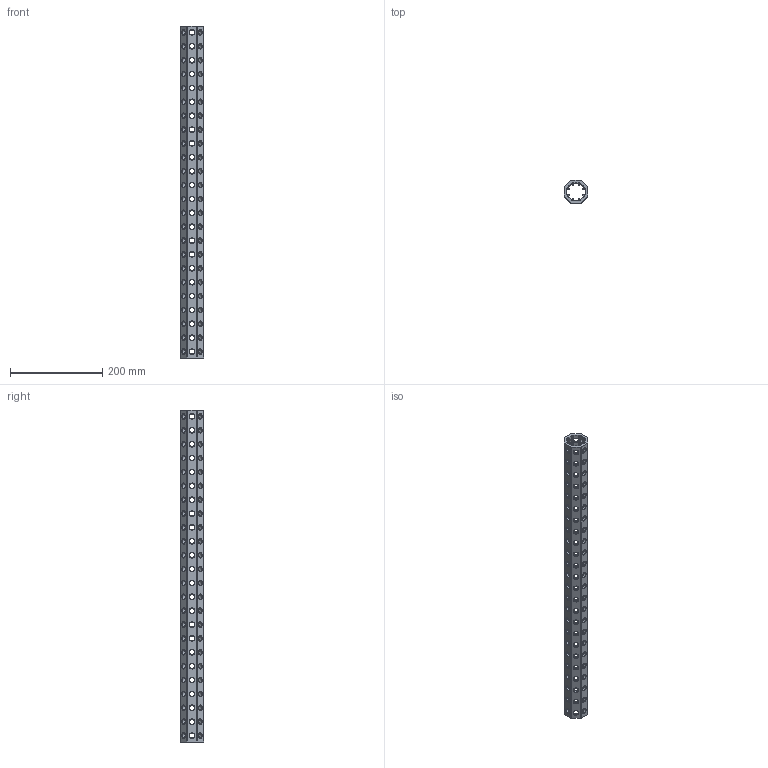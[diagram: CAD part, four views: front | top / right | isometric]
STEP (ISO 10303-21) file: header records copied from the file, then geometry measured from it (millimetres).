
FILE_DESCRIPTION(('CATIA V5 STEP Exchange'),'2;1');
FILE_NAME('U:\Room\唐宝山\EGT002\46-01-010253-01-EGT002-718.stp','2021-08-24T01:06:31+00:00',('none'),('none'),'CATIA Version 5 Release 21 GA (IN-10)','CATIA V5 STEP AP203','none');
FILE_SCHEMA(('CONFIG_CONTROL_DESIGN'));
Length unit declared in the file: millimetre
Products named in the file (1): 46-01-010253-01-EGT002-718
Bounding box: 50 x 50 x 718 mm (x, y, z)
Volume: 511401.4 mm3; surface area: 247708.9 mm2
Topology: 1 solids, 1 shells, 1044 faces, 2886 edges, 1796 vertices
Faces by surface type: cone 576, cylinder 442, plane 26
Entity records: 42584 total; most frequent: CARTESIAN_POINT 17271, ORIENTED_EDGE 5772, DIRECTION 4058, EDGE_CURVE 2886, AXIS2_PLACEMENT_3D 1877, VERTEX_POINT 1796, EDGE_LOOP 1382, VECTOR 1138
